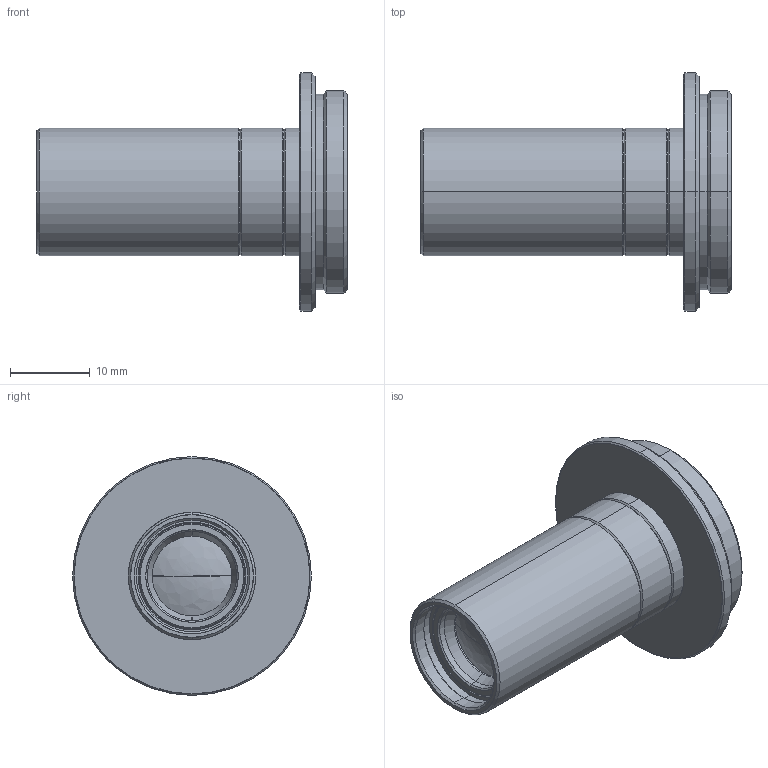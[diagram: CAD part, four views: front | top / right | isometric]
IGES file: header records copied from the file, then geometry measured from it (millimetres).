
Start section: SolidWorks IGES file using analytic representation for surfaces
Global section: file name: C:\Users\tsuji_vst\Documents\【作業フォルダ】\【3D】\00 VST\VS-MC\VS-MC05-65\VS-MC05-65.IGS; native system: SolidWorks 2018; preprocessor: SolidWorks 2018; author: tsuji_vst; date: 200323.100728; units: millimetre
Bounding box: 38.97 x 30 x 30 mm (x, y, z)
Surface area: 4639.5 mm2 (no closed solid volume)
Topology: 0 solids, 0 shells, 81 faces, 936 edges, 934 vertices
Faces by surface type: revolution 72, bspline 9
